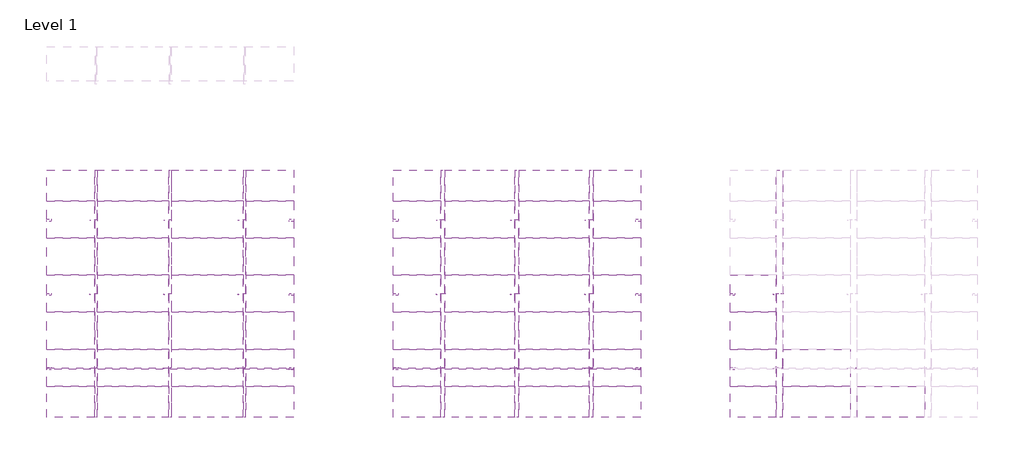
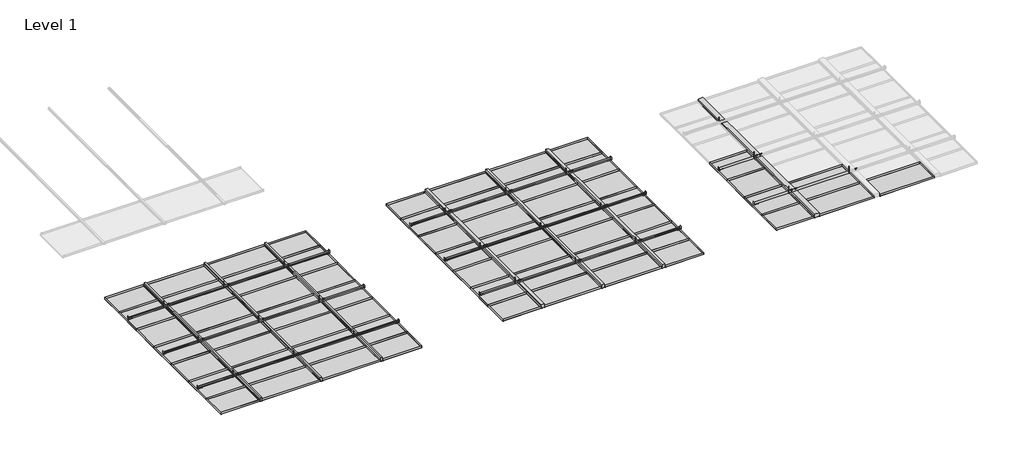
# One storey, part 1 of 32: 139 proxies.
"""IFC4 building model written with IfcOpenShell, lengths in millimetres."""

from ifc_helpers import new_model, si_unit, origin, place, context, project, spatial, transform, mapped, element, save
from components import generic_models_25bc2594, generic_models_84b6d0ed, generic_models_a920f71d, generic_models_29f93f66, generic_models_744256a4, generic_models_4c3bed80, generic_models_f1f4aed1, generic_models_9ae9bc9c, generic_models_ebd4e5d5, generic_models_2596e338, generic_models_5f7188fc, generic_models_6ba6b66a, generic_models_ea6e254a, generic_models_5d724c03, generic_models_0fcaee43, generic_models_6363a089, generic_models_a7669d07, generic_models_2307843b, generic_models_9e18e937, generic_models_28f6a95c

model = new_model("IFC4")

# Units and contexts
model_context = context("Model", 3, world=origin())
ifc_project = project(units=[si_unit("LENGTHUNIT", "METRE", prefix="MILLI")], contexts=[model_context])

# Site, building, storey
site = spatial("IfcSite", under=ifc_project)
building = spatial("IfcBuilding", under=site)
storey = spatial("IfcBuildingStorey", under=building, Name="Level 1", Elevation=0.0)

# Proxies
placement = place(None, origin())
generic_models_shape = generic_models_25bc2594(model_context)
element("IfcBuildingElementProxy", 1, Name="durlum_OMEGA_100 : durlum_OMEGA_100", ObjectType="durlum_OMEGA_100 : durlum_OMEGA_100", at=placement, inside=storey, context=model_context, shape_type="MappedRepresentation", body=[
    mapped(generic_models_shape, transform((-34443.3162584, -18263.6758377, 3800.0), x_axis=(0.0, -1.0, 0.0), y_axis=(1.0, 0.0, 0.0), z_axis=(0.0, 0.0, 1.0))),
])
generic_models_2_shape = generic_models_84b6d0ed(model_context)
element("IfcBuildingElementProxy", 2, Name="durlum_OM76_bracket : durlum_OM76_bracket", ObjectType="durlum_OM76_bracket : durlum_OM76_bracket", at=placement, inside=storey, context=model_context, shape_type="MappedRepresentation", body=[
    mapped(generic_models_2_shape, transform((-45497.4152168, -18262.1758377, 3864.0), x_axis=(1.0, 0.0, 0.0), y_axis=(0.0, 1.0, 0.0), z_axis=(0.0, 0.0, 1.0))),
])
element("IfcBuildingElementProxy", 3, Name="durlum_OM76_bracket : durlum_OM76_bracket", ObjectType="durlum_OM76_bracket : durlum_OM76_bracket", at=placement, inside=storey, context=model_context, shape_type="MappedRepresentation", body=[
    mapped(generic_models_2_shape, transform((-43097.4152168, -18262.1758377, 3864.0), x_axis=(1.0, 0.0, 0.0), y_axis=(0.0, 1.0, 0.0), z_axis=(0.0, 0.0, 1.0))),
])
element("IfcBuildingElementProxy", 4, Name="durlum_OM76_bracket : durlum_OM76_bracket", ObjectType="durlum_OM76_bracket : durlum_OM76_bracket", at=placement, inside=storey, context=model_context, shape_type="MappedRepresentation", body=[
    mapped(generic_models_2_shape, transform((-44297.4152168, -18262.1758377, 3864.0), x_axis=(1.0, 0.0, 0.0), y_axis=(0.0, 1.0, 0.0), z_axis=(0.0, 0.0, 1.0))),
])
element("IfcBuildingElementProxy", 5, Name="durlum_OM76_bracket : durlum_OM76_bracket", ObjectType="durlum_OM76_bracket : durlum_OM76_bracket", at=placement, inside=storey, context=model_context, shape_type="MappedRepresentation", body=[
    mapped(generic_models_2_shape, transform((-45497.4152168, -19462.1758377, 3864.0), x_axis=(1.0, 0.0, 0.0), y_axis=(0.0, 1.0, 0.0), z_axis=(0.0, 0.0, 1.0))),
])
element("IfcBuildingElementProxy", 6, Name="durlum_OM76_bracket : durlum_OM76_bracket", ObjectType="durlum_OM76_bracket : durlum_OM76_bracket", at=placement, inside=storey, context=model_context, shape_type="MappedRepresentation", body=[
    mapped(generic_models_2_shape, transform((-43097.4152168, -19462.1758377, 3864.0), x_axis=(1.0, 0.0, 0.0), y_axis=(0.0, 1.0, 0.0), z_axis=(0.0, 0.0, 1.0))),
])
element("IfcBuildingElementProxy", 7, Name="durlum_OM76_bracket : durlum_OM76_bracket", ObjectType="durlum_OM76_bracket : durlum_OM76_bracket", at=placement, inside=storey, context=model_context, shape_type="MappedRepresentation", body=[
    mapped(generic_models_2_shape, transform((-44297.4152168, -19462.1758377, 3864.0), x_axis=(1.0, 0.0, 0.0), y_axis=(0.0, 1.0, 0.0), z_axis=(0.0, 0.0, 1.0))),
])
element("IfcBuildingElementProxy", 8, Name="durlum_OM76_bracket : durlum_OM76_bracket", ObjectType="durlum_OM76_bracket : durlum_OM76_bracket", at=placement, inside=storey, context=model_context, shape_type="MappedRepresentation", body=[
    mapped(generic_models_2_shape, transform((-45497.4152168, -17062.1758377, 3864.0), x_axis=(1.0, 0.0, 0.0), y_axis=(0.0, 1.0, 0.0), z_axis=(0.0, 0.0, 1.0))),
])
element("IfcBuildingElementProxy", 9, Name="durlum_OM76_bracket : durlum_OM76_bracket", ObjectType="durlum_OM76_bracket : durlum_OM76_bracket", at=placement, inside=storey, context=model_context, shape_type="MappedRepresentation", body=[
    mapped(generic_models_2_shape, transform((-43097.4152168, -17062.1758377, 3864.0), x_axis=(1.0, 0.0, 0.0), y_axis=(0.0, 1.0, 0.0), z_axis=(0.0, 0.0, 1.0))),
])
element("IfcBuildingElementProxy", 10, Name="durlum_OM76_bracket : durlum_OM76_bracket", ObjectType="durlum_OM76_bracket : durlum_OM76_bracket", at=placement, inside=storey, context=model_context, shape_type="MappedRepresentation", body=[
    mapped(generic_models_2_shape, transform((-44297.4152168, -17062.1758377, 3864.0), x_axis=(1.0, 0.0, 0.0), y_axis=(0.0, 1.0, 0.0), z_axis=(0.0, 0.0, 1.0))),
])
element("IfcBuildingElementProxy", 11, Name="durlum_OM76_bracket : durlum_OM76_bracket", ObjectType="durlum_OM76_bracket : durlum_OM76_bracket", at=placement, inside=storey, context=model_context, shape_type="MappedRepresentation", body=[
    mapped(generic_models_2_shape, transform((-37472.0360358, -18262.1758377, 3864.0), x_axis=(1.0, 0.0, 0.0), y_axis=(0.0, 1.0, 0.0), z_axis=(0.0, 0.0, 1.0))),
])
element("IfcBuildingElementProxy", 12, Name="durlum_OM76_bracket : durlum_OM76_bracket", ObjectType="durlum_OM76_bracket : durlum_OM76_bracket", at=placement, inside=storey, context=model_context, shape_type="MappedRepresentation", body=[
    mapped(generic_models_2_shape, transform((-39872.0360358, -18262.1758377, 3864.0), x_axis=(1.0, 0.0, 0.0), y_axis=(0.0, 1.0, 0.0), z_axis=(0.0, 0.0, 1.0))),
])
element("IfcBuildingElementProxy", 13, Name="durlum_OM76_bracket : durlum_OM76_bracket", ObjectType="durlum_OM76_bracket : durlum_OM76_bracket", at=placement, inside=storey, context=model_context, shape_type="MappedRepresentation", body=[
    mapped(generic_models_2_shape, transform((-38672.0360358, -18262.1758377, 3864.0), x_axis=(1.0, 0.0, 0.0), y_axis=(0.0, 1.0, 0.0), z_axis=(0.0, 0.0, 1.0))),
])
element("IfcBuildingElementProxy", 14, Name="durlum_OM76_bracket : durlum_OM76_bracket", ObjectType="durlum_OM76_bracket : durlum_OM76_bracket", at=placement, inside=storey, context=model_context, shape_type="MappedRepresentation", body=[
    mapped(generic_models_2_shape, transform((-39910.0360358, -18262.1758377, 3864.0), x_axis=(1.0, 0.0, 0.0), y_axis=(0.0, 1.0, 0.0), z_axis=(0.0, 0.0, 1.0))),
])
element("IfcBuildingElementProxy", 15, Name="durlum_OM76_bracket : durlum_OM76_bracket", ObjectType="durlum_OM76_bracket : durlum_OM76_bracket", at=placement, inside=storey, context=model_context, shape_type="MappedRepresentation", body=[
    mapped(generic_models_2_shape, transform((-37510.0360358, -18262.1758377, 3864.0), x_axis=(1.0, 0.0, 0.0), y_axis=(0.0, 1.0, 0.0), z_axis=(0.0, 0.0, 1.0))),
])
element("IfcBuildingElementProxy", 16, Name="durlum_OM76_bracket : durlum_OM76_bracket", ObjectType="durlum_OM76_bracket : durlum_OM76_bracket", at=placement, inside=storey, context=model_context, shape_type="MappedRepresentation", body=[
    mapped(generic_models_2_shape, transform((-38710.0360358, -18262.1758377, 3864.0), x_axis=(1.0, 0.0, 0.0), y_axis=(0.0, 1.0, 0.0), z_axis=(0.0, 0.0, 1.0))),
])
element("IfcBuildingElementProxy", 17, Name="durlum_OM76_bracket : durlum_OM76_bracket", ObjectType="durlum_OM76_bracket : durlum_OM76_bracket", at=placement, inside=storey, context=model_context, shape_type="MappedRepresentation", body=[
    mapped(generic_models_2_shape, transform((-37472.0360358, -19462.1758377, 3864.0), x_axis=(1.0, 0.0, 0.0), y_axis=(0.0, 1.0, 0.0), z_axis=(0.0, 0.0, 1.0))),
])
element("IfcBuildingElementProxy", 18, Name="durlum_OM76_bracket : durlum_OM76_bracket", ObjectType="durlum_OM76_bracket : durlum_OM76_bracket", at=placement, inside=storey, context=model_context, shape_type="MappedRepresentation", body=[
    mapped(generic_models_2_shape, transform((-39872.0360358, -19462.1758377, 3864.0), x_axis=(1.0, 0.0, 0.0), y_axis=(0.0, 1.0, 0.0), z_axis=(0.0, 0.0, 1.0))),
])
element("IfcBuildingElementProxy", 19, Name="durlum_OM76_bracket : durlum_OM76_bracket", ObjectType="durlum_OM76_bracket : durlum_OM76_bracket", at=placement, inside=storey, context=model_context, shape_type="MappedRepresentation", body=[
    mapped(generic_models_2_shape, transform((-38672.0360358, -19462.1758377, 3864.0), x_axis=(1.0, 0.0, 0.0), y_axis=(0.0, 1.0, 0.0), z_axis=(0.0, 0.0, 1.0))),
])
element("IfcBuildingElementProxy", 20, Name="durlum_OM76_bracket : durlum_OM76_bracket", ObjectType="durlum_OM76_bracket : durlum_OM76_bracket", at=placement, inside=storey, context=model_context, shape_type="MappedRepresentation", body=[
    mapped(generic_models_2_shape, transform((-39910.0360358, -19462.1758377, 3864.0), x_axis=(1.0, 0.0, 0.0), y_axis=(0.0, 1.0, 0.0), z_axis=(0.0, 0.0, 1.0))),
])
element("IfcBuildingElementProxy", 21, Name="durlum_OM76_bracket : durlum_OM76_bracket", ObjectType="durlum_OM76_bracket : durlum_OM76_bracket", at=placement, inside=storey, context=model_context, shape_type="MappedRepresentation", body=[
    mapped(generic_models_2_shape, transform((-37510.0360358, -19462.1758377, 3864.0), x_axis=(1.0, 0.0, 0.0), y_axis=(0.0, 1.0, 0.0), z_axis=(0.0, 0.0, 1.0))),
])
element("IfcBuildingElementProxy", 22, Name="durlum_OM76_bracket : durlum_OM76_bracket", ObjectType="durlum_OM76_bracket : durlum_OM76_bracket", at=placement, inside=storey, context=model_context, shape_type="MappedRepresentation", body=[
    mapped(generic_models_2_shape, transform((-38710.0360358, -19462.1758377, 3864.0), x_axis=(1.0, 0.0, 0.0), y_axis=(0.0, 1.0, 0.0), z_axis=(0.0, 0.0, 1.0))),
])
element("IfcBuildingElementProxy", 23, Name="durlum_OM76_bracket : durlum_OM76_bracket", ObjectType="durlum_OM76_bracket : durlum_OM76_bracket", at=placement, inside=storey, context=model_context, shape_type="MappedRepresentation", body=[
    mapped(generic_models_2_shape, transform((-37472.0360358, -17062.1758377, 3864.0), x_axis=(1.0, 0.0, 0.0), y_axis=(0.0, 1.0, 0.0), z_axis=(0.0, 0.0, 1.0))),
])
element("IfcBuildingElementProxy", 24, Name="durlum_OM76_bracket : durlum_OM76_bracket", ObjectType="durlum_OM76_bracket : durlum_OM76_bracket", at=placement, inside=storey, context=model_context, shape_type="MappedRepresentation", body=[
    mapped(generic_models_2_shape, transform((-39872.0360358, -17062.1758377, 3864.0), x_axis=(1.0, 0.0, 0.0), y_axis=(0.0, 1.0, 0.0), z_axis=(0.0, 0.0, 1.0))),
])
element("IfcBuildingElementProxy", 25, Name="durlum_OM76_bracket : durlum_OM76_bracket", ObjectType="durlum_OM76_bracket : durlum_OM76_bracket", at=placement, inside=storey, context=model_context, shape_type="MappedRepresentation", body=[
    mapped(generic_models_2_shape, transform((-38672.0360358, -17062.1758377, 3864.0), x_axis=(1.0, 0.0, 0.0), y_axis=(0.0, 1.0, 0.0), z_axis=(0.0, 0.0, 1.0))),
])
element("IfcBuildingElementProxy", 26, Name="durlum_OM76_bracket : durlum_OM76_bracket", ObjectType="durlum_OM76_bracket : durlum_OM76_bracket", at=placement, inside=storey, context=model_context, shape_type="MappedRepresentation", body=[
    mapped(generic_models_2_shape, transform((-39910.0360358, -17062.1758377, 3864.0), x_axis=(1.0, 0.0, 0.0), y_axis=(0.0, 1.0, 0.0), z_axis=(0.0, 0.0, 1.0))),
])
element("IfcBuildingElementProxy", 27, Name="durlum_OM76_bracket : durlum_OM76_bracket", ObjectType="durlum_OM76_bracket : durlum_OM76_bracket", at=placement, inside=storey, context=model_context, shape_type="MappedRepresentation", body=[
    mapped(generic_models_2_shape, transform((-37510.0360358, -17062.1758377, 3864.0), x_axis=(1.0, 0.0, 0.0), y_axis=(0.0, 1.0, 0.0), z_axis=(0.0, 0.0, 1.0))),
])
element("IfcBuildingElementProxy", 28, Name="durlum_OM76_bracket : durlum_OM76_bracket", ObjectType="durlum_OM76_bracket : durlum_OM76_bracket", at=placement, inside=storey, context=model_context, shape_type="MappedRepresentation", body=[
    mapped(generic_models_2_shape, transform((-38710.0360358, -17062.1758377, 3864.0), x_axis=(1.0, 0.0, 0.0), y_axis=(0.0, 1.0, 0.0), z_axis=(0.0, 0.0, 1.0))),
])
element("IfcBuildingElementProxy", 29, Name="durlum_OM76_bracket : durlum_OM76_bracket", ObjectType="durlum_OM76_bracket : durlum_OM76_bracket", at=placement, inside=storey, context=model_context, shape_type="MappedRepresentation", body=[
    mapped(generic_models_2_shape, transform((-34403.3162584, -18262.1758377, 3864.0), x_axis=(1.0, 0.0, 0.0), y_axis=(0.0, 1.0, 0.0), z_axis=(0.0, 0.0, 1.0))),
])
element("IfcBuildingElementProxy", 30, Name="durlum_OM76_bracket : durlum_OM76_bracket", ObjectType="durlum_OM76_bracket : durlum_OM76_bracket", at=placement, inside=storey, context=model_context, shape_type="MappedRepresentation", body=[
    mapped(generic_models_2_shape, transform((-34483.3162584, -18262.1758377, 3864.0), x_axis=(1.0, 0.0, 0.0), y_axis=(0.0, 1.0, 0.0), z_axis=(0.0, 0.0, 1.0))),
])
element("IfcBuildingElementProxy", 31, Name="durlum_OM76_bracket : durlum_OM76_bracket", ObjectType="durlum_OM76_bracket : durlum_OM76_bracket", at=placement, inside=storey, context=model_context, shape_type="MappedRepresentation", body=[
    mapped(generic_models_2_shape, transform((-34403.3162584, -19462.1758377, 3864.0), x_axis=(1.0, 0.0, 0.0), y_axis=(0.0, 1.0, 0.0), z_axis=(0.0, 0.0, 1.0))),
])
element("IfcBuildingElementProxy", 32, Name="durlum_OM76_bracket : durlum_OM76_bracket", ObjectType="durlum_OM76_bracket : durlum_OM76_bracket", at=placement, inside=storey, context=model_context, shape_type="MappedRepresentation", body=[
    mapped(generic_models_2_shape, transform((-33203.3162584, -19462.1758377, 3864.0), x_axis=(1.0, 0.0, 0.0), y_axis=(0.0, 1.0, 0.0), z_axis=(0.0, 0.0, 1.0))),
])
element("IfcBuildingElementProxy", 33, Name="durlum_OM76_bracket : durlum_OM76_bracket", ObjectType="durlum_OM76_bracket : durlum_OM76_bracket", at=placement, inside=storey, context=model_context, shape_type="MappedRepresentation", body=[
    mapped(generic_models_2_shape, transform((-34483.3162584, -19462.1758377, 3864.0), x_axis=(1.0, 0.0, 0.0), y_axis=(0.0, 1.0, 0.0), z_axis=(0.0, 0.0, 1.0))),
])
generic_models_3_shape = generic_models_a920f71d(model_context)
element("IfcBuildingElementProxy", 34, Name="durlum_threaded_rod_M6 : durlum_threaded_rod_M6", ObjectType="durlum_threaded_rod_M6 : durlum_threaded_rod_M6", at=placement, inside=storey, context=model_context, shape_type="MappedRepresentation", body=[
    mapped(generic_models_3_shape, transform((-43197.4152168, -18277.6758377, 3876.0), x_axis=(1.0, 0.0, 0.0), y_axis=(0.0, 1.0, 0.0), z_axis=(0.0, 0.0, 1.0))),
])
element("IfcBuildingElementProxy", 35, Name="durlum_threaded_rod_M6 : durlum_threaded_rod_M6", ObjectType="durlum_threaded_rod_M6 : durlum_threaded_rod_M6", at=placement, inside=storey, context=model_context, shape_type="MappedRepresentation", body=[
    mapped(generic_models_3_shape, transform((-45597.4152168, -18277.6758377, 3876.0), x_axis=(1.0, 0.0, 0.0), y_axis=(0.0, 1.0, 0.0), z_axis=(0.0, 0.0, 1.0))),
])
element("IfcBuildingElementProxy", 36, Name="durlum_threaded_rod_M6 : durlum_threaded_rod_M6", ObjectType="durlum_threaded_rod_M6 : durlum_threaded_rod_M6", at=placement, inside=storey, context=model_context, shape_type="MappedRepresentation", body=[
    mapped(generic_models_3_shape, transform((-44397.4152168, -18277.6758377, 3876.0), x_axis=(1.0, 0.0, 0.0), y_axis=(0.0, 1.0, 0.0), z_axis=(0.0, 0.0, 1.0))),
])
element("IfcBuildingElementProxy", 37, Name="durlum_threaded_rod_M6 : durlum_threaded_rod_M6", ObjectType="durlum_threaded_rod_M6 : durlum_threaded_rod_M6", at=placement, inside=storey, context=model_context, shape_type="MappedRepresentation", body=[
    mapped(generic_models_3_shape, transform((-43197.4152168, -19477.6758377, 3876.0), x_axis=(1.0, 0.0, 0.0), y_axis=(0.0, 1.0, 0.0), z_axis=(0.0, 0.0, 1.0))),
])
element("IfcBuildingElementProxy", 38, Name="durlum_threaded_rod_M6 : durlum_threaded_rod_M6", ObjectType="durlum_threaded_rod_M6 : durlum_threaded_rod_M6", at=placement, inside=storey, context=model_context, shape_type="MappedRepresentation", body=[
    mapped(generic_models_3_shape, transform((-45597.4152168, -19477.6758377, 3876.0), x_axis=(1.0, 0.0, 0.0), y_axis=(0.0, 1.0, 0.0), z_axis=(0.0, 0.0, 1.0))),
])
element("IfcBuildingElementProxy", 39, Name="durlum_threaded_rod_M6 : durlum_threaded_rod_M6", ObjectType="durlum_threaded_rod_M6 : durlum_threaded_rod_M6", at=placement, inside=storey, context=model_context, shape_type="MappedRepresentation", body=[
    mapped(generic_models_3_shape, transform((-44397.4152168, -19477.6758377, 3876.0), x_axis=(1.0, 0.0, 0.0), y_axis=(0.0, 1.0, 0.0), z_axis=(0.0, 0.0, 1.0))),
])
element("IfcBuildingElementProxy", 40, Name="durlum_threaded_rod_M6 : durlum_threaded_rod_M6", ObjectType="durlum_threaded_rod_M6 : durlum_threaded_rod_M6", at=placement, inside=storey, context=model_context, shape_type="MappedRepresentation", body=[
    mapped(generic_models_3_shape, transform((-43197.4152168, -17077.6758377, 3876.0), x_axis=(1.0, 0.0, 0.0), y_axis=(0.0, 1.0, 0.0), z_axis=(0.0, 0.0, 1.0))),
])
element("IfcBuildingElementProxy", 41, Name="durlum_threaded_rod_M6 : durlum_threaded_rod_M6", ObjectType="durlum_threaded_rod_M6 : durlum_threaded_rod_M6", at=placement, inside=storey, context=model_context, shape_type="MappedRepresentation", body=[
    mapped(generic_models_3_shape, transform((-45597.4152168, -17077.6758377, 3876.0), x_axis=(1.0, 0.0, 0.0), y_axis=(0.0, 1.0, 0.0), z_axis=(0.0, 0.0, 1.0))),
])
element("IfcBuildingElementProxy", 42, Name="durlum_threaded_rod_M6 : durlum_threaded_rod_M6", ObjectType="durlum_threaded_rod_M6 : durlum_threaded_rod_M6", at=placement, inside=storey, context=model_context, shape_type="MappedRepresentation", body=[
    mapped(generic_models_3_shape, transform((-44397.4152168, -17077.6758377, 3876.0), x_axis=(1.0, 0.0, 0.0), y_axis=(0.0, 1.0, 0.0), z_axis=(0.0, 0.0, 1.0))),
])
element("IfcBuildingElementProxy", 43, Name="durlum_threaded_rod_M6 : durlum_threaded_rod_M6", ObjectType="durlum_threaded_rod_M6 : durlum_threaded_rod_M6", at=placement, inside=storey, context=model_context, shape_type="MappedRepresentation", body=[
    mapped(generic_models_3_shape, transform((-37591.0360358, -18277.6758377, 3876.0), x_axis=(1.0, 0.0, 0.0), y_axis=(0.0, 1.0, 0.0), z_axis=(0.0, 0.0, 1.0))),
])
element("IfcBuildingElementProxy", 44, Name="durlum_threaded_rod_M6 : durlum_threaded_rod_M6", ObjectType="durlum_threaded_rod_M6 : durlum_threaded_rod_M6", at=placement, inside=storey, context=model_context, shape_type="MappedRepresentation", body=[
    mapped(generic_models_3_shape, transform((-39991.0360358, -18277.6758377, 3876.0), x_axis=(1.0, 0.0, 0.0), y_axis=(0.0, 1.0, 0.0), z_axis=(0.0, 0.0, 1.0))),
])
element("IfcBuildingElementProxy", 45, Name="durlum_threaded_rod_M6 : durlum_threaded_rod_M6", ObjectType="durlum_threaded_rod_M6 : durlum_threaded_rod_M6", at=placement, inside=storey, context=model_context, shape_type="MappedRepresentation", body=[
    mapped(generic_models_3_shape, transform((-38791.0360358, -18277.6758377, 3876.0), x_axis=(1.0, 0.0, 0.0), y_axis=(0.0, 1.0, 0.0), z_axis=(0.0, 0.0, 1.0))),
])
element("IfcBuildingElementProxy", 46, Name="durlum_threaded_rod_M6 : durlum_threaded_rod_M6", ObjectType="durlum_threaded_rod_M6 : durlum_threaded_rod_M6", at=placement, inside=storey, context=model_context, shape_type="MappedRepresentation", body=[
    mapped(generic_models_3_shape, transform((-37591.0360358, -19477.6758377, 3876.0), x_axis=(1.0, 0.0, 0.0), y_axis=(0.0, 1.0, 0.0), z_axis=(0.0, 0.0, 1.0))),
])
element("IfcBuildingElementProxy", 47, Name="durlum_threaded_rod_M6 : durlum_threaded_rod_M6", ObjectType="durlum_threaded_rod_M6 : durlum_threaded_rod_M6", at=placement, inside=storey, context=model_context, shape_type="MappedRepresentation", body=[
    mapped(generic_models_3_shape, transform((-39991.0360358, -19477.6758377, 3876.0), x_axis=(1.0, 0.0, 0.0), y_axis=(0.0, 1.0, 0.0), z_axis=(0.0, 0.0, 1.0))),
])
element("IfcBuildingElementProxy", 48, Name="durlum_threaded_rod_M6 : durlum_threaded_rod_M6", ObjectType="durlum_threaded_rod_M6 : durlum_threaded_rod_M6", at=placement, inside=storey, context=model_context, shape_type="MappedRepresentation", body=[
    mapped(generic_models_3_shape, transform((-38791.0360358, -19477.6758377, 3876.0), x_axis=(1.0, 0.0, 0.0), y_axis=(0.0, 1.0, 0.0), z_axis=(0.0, 0.0, 1.0))),
])
element("IfcBuildingElementProxy", 49, Name="durlum_threaded_rod_M6 : durlum_threaded_rod_M6", ObjectType="durlum_threaded_rod_M6 : durlum_threaded_rod_M6", at=placement, inside=storey, context=model_context, shape_type="MappedRepresentation", body=[
    mapped(generic_models_3_shape, transform((-37591.0360358, -17077.6758377, 3876.0), x_axis=(1.0, 0.0, 0.0), y_axis=(0.0, 1.0, 0.0), z_axis=(0.0, 0.0, 1.0))),
])
element("IfcBuildingElementProxy", 50, Name="durlum_threaded_rod_M6 : durlum_threaded_rod_M6", ObjectType="durlum_threaded_rod_M6 : durlum_threaded_rod_M6", at=placement, inside=storey, context=model_context, shape_type="MappedRepresentation", body=[
    mapped(generic_models_3_shape, transform((-39991.0360358, -17077.6758377, 3876.0), x_axis=(1.0, 0.0, 0.0), y_axis=(0.0, 1.0, 0.0), z_axis=(0.0, 0.0, 1.0))),
])
element("IfcBuildingElementProxy", 51, Name="durlum_threaded_rod_M6 : durlum_threaded_rod_M6", ObjectType="durlum_threaded_rod_M6 : durlum_threaded_rod_M6", at=placement, inside=storey, context=model_context, shape_type="MappedRepresentation", body=[
    mapped(generic_models_3_shape, transform((-38791.0360358, -17077.6758377, 3876.0), x_axis=(1.0, 0.0, 0.0), y_axis=(0.0, 1.0, 0.0), z_axis=(0.0, 0.0, 1.0))),
])
element("IfcBuildingElementProxy", 52, Name="durlum_threaded_rod_M6 : durlum_threaded_rod_M6", ObjectType="durlum_threaded_rod_M6 : durlum_threaded_rod_M6", at=placement, inside=storey, context=model_context, shape_type="MappedRepresentation", body=[
    mapped(generic_models_3_shape, transform((-34543.3162584, -18277.6758377, 3876.0), x_axis=(1.0, 0.0, 0.0), y_axis=(0.0, 1.0, 0.0), z_axis=(0.0, 0.0, 1.0))),
])
element("IfcBuildingElementProxy", 53, Name="durlum_threaded_rod_M6 : durlum_threaded_rod_M6", ObjectType="durlum_threaded_rod_M6 : durlum_threaded_rod_M6", at=placement, inside=storey, context=model_context, shape_type="MappedRepresentation", body=[
    mapped(generic_models_3_shape, transform((-34543.3162584, -19477.6758377, 3876.0), x_axis=(1.0, 0.0, 0.0), y_axis=(0.0, 1.0, 0.0), z_axis=(0.0, 0.0, 1.0))),
])
element("IfcBuildingElementProxy", 54, Name="durlum_threaded_rod_M6 : durlum_threaded_rod_M6", ObjectType="durlum_threaded_rod_M6 : durlum_threaded_rod_M6", at=placement, inside=storey, context=model_context, shape_type="MappedRepresentation", body=[
    mapped(generic_models_3_shape, transform((-33343.3162584, -19477.6758377, 3876.0), x_axis=(1.0, 0.0, 0.0), y_axis=(0.0, 1.0, 0.0), z_axis=(0.0, 0.0, 1.0))),
])
generic_models_4_shape = generic_models_29f93f66(model_context)
element("IfcBuildingElementProxy", 55, Name="durlum_OMEGA_63 : durlum_OMEGA_63", ObjectType="durlum_OMEGA_63 : durlum_OMEGA_63", at=placement, inside=storey, context=model_context, shape_type="MappedRepresentation", body=[
    mapped(generic_models_4_shape, transform((-38691.0360358, -18263.6758377, 3800.0), x_axis=(0.0, -1.0, 0.0), y_axis=(1.0, 0.0, 0.0), z_axis=(0.0, 0.0, 1.0))),
])
element("IfcBuildingElementProxy", 56, Name="durlum_OMEGA_63 : durlum_OMEGA_63", ObjectType="durlum_OMEGA_63 : durlum_OMEGA_63", at=placement, inside=storey, context=model_context, shape_type="MappedRepresentation", body=[
    mapped(generic_models_4_shape, transform((-39891.0360358, -18263.6758377, 3800.0), x_axis=(0.0, -1.0, 0.0), y_axis=(1.0, 0.0, 0.0), z_axis=(0.0, 0.0, 1.0))),
])
element("IfcBuildingElementProxy", 57, Name="durlum_OMEGA_63 : durlum_OMEGA_63", ObjectType="durlum_OMEGA_63 : durlum_OMEGA_63", at=placement, inside=storey, context=model_context, shape_type="MappedRepresentation", body=[
    mapped(generic_models_4_shape, transform((-37491.0360358, -18263.6758377, 3800.0), x_axis=(0.0, -1.0, 0.0), y_axis=(1.0, 0.0, 0.0), z_axis=(0.0, 0.0, 1.0))),
])
generic_models_5_shape = generic_models_744256a4(model_context)
element("IfcBuildingElementProxy", 58, Name="durlum_OMEGA_40 : durlum_OMEGA_40", ObjectType="durlum_OMEGA_40 : durlum_OMEGA_40", at=placement, inside=storey, context=model_context, shape_type="MappedRepresentation", body=[
    mapped(generic_models_5_shape, transform((-44297.4152168, -18263.6758377, 3800.0), x_axis=(0.0, -1.0, 0.0), y_axis=(1.0, 0.0, 0.0), z_axis=(0.0, 0.0, 1.0))),
])
element("IfcBuildingElementProxy", 59, Name="durlum_OMEGA_40 : durlum_OMEGA_40", ObjectType="durlum_OMEGA_40 : durlum_OMEGA_40", at=placement, inside=storey, context=model_context, shape_type="MappedRepresentation", body=[
    mapped(generic_models_5_shape, transform((-45497.4152168, -18263.6758377, 3800.0), x_axis=(0.0, -1.0, 0.0), y_axis=(1.0, 0.0, 0.0), z_axis=(0.0, 0.0, 1.0))),
])
element("IfcBuildingElementProxy", 60, Name="durlum_OMEGA_40 : durlum_OMEGA_40", ObjectType="durlum_OMEGA_40 : durlum_OMEGA_40", at=placement, inside=storey, context=model_context, shape_type="MappedRepresentation", body=[
    mapped(generic_models_5_shape, transform((-43097.4152168, -18263.6758377, 3800.0), x_axis=(0.0, -1.0, 0.0), y_axis=(1.0, 0.0, 0.0), z_axis=(0.0, 0.0, 1.0))),
])
generic_models_6_shape = generic_models_4c3bed80(model_context)
element("IfcBuildingElementProxy", 61, Name="durlum_S-OM-40-RHOMBOS : durlum_S-OM-40-RHOMBOS_panel", ObjectType="durlum_S-OM-40-RHOMBOS : durlum_S-OM-40-RHOMBOS_panel", at=placement, inside=storey, context=model_context, shape_type="MappedRepresentation", body=[
    mapped(generic_models_6_shape, transform((-44897.4152168, -18863.6758377, 3800.0), x_axis=(1.0, 0.0, 0.0), y_axis=(0.0, 1.0, 0.0), z_axis=(0.0, 0.0, 1.0))),
])
element("IfcBuildingElementProxy", 62, Name="durlum_S-OM-40-RHOMBOS : durlum_S-OM-40-RHOMBOS_panel", ObjectType="durlum_S-OM-40-RHOMBOS : durlum_S-OM-40-RHOMBOS_panel", at=placement, inside=storey, context=model_context, shape_type="MappedRepresentation", body=[
    mapped(generic_models_6_shape, transform((-43697.4152168, -18863.6758377, 3800.0), x_axis=(1.0, 0.0, 0.0), y_axis=(0.0, 1.0, 0.0), z_axis=(0.0, 0.0, 1.0))),
])
element("IfcBuildingElementProxy", 63, Name="durlum_S-OM-40-RHOMBOS : durlum_S-OM-40-RHOMBOS_panel", ObjectType="durlum_S-OM-40-RHOMBOS : durlum_S-OM-40-RHOMBOS_panel", at=placement, inside=storey, context=model_context, shape_type="MappedRepresentation", body=[
    mapped(generic_models_6_shape, transform((-44897.4152168, -18263.6758377, 3800.0), x_axis=(1.0, 0.0, 0.0), y_axis=(0.0, 1.0, 0.0), z_axis=(0.0, 0.0, 1.0))),
])
element("IfcBuildingElementProxy", 64, Name="durlum_S-OM-40-RHOMBOS : durlum_S-OM-40-RHOMBOS_panel", ObjectType="durlum_S-OM-40-RHOMBOS : durlum_S-OM-40-RHOMBOS_panel", at=placement, inside=storey, context=model_context, shape_type="MappedRepresentation", body=[
    mapped(generic_models_6_shape, transform((-43697.4152168, -18263.6758377, 3800.0), x_axis=(1.0, 0.0, 0.0), y_axis=(0.0, 1.0, 0.0), z_axis=(0.0, 0.0, 1.0))),
])
element("IfcBuildingElementProxy", 65, Name="durlum_S-OM-40-RHOMBOS : durlum_S-OM-40-RHOMBOS_panel", ObjectType="durlum_S-OM-40-RHOMBOS : durlum_S-OM-40-RHOMBOS_panel", at=placement, inside=storey, context=model_context, shape_type="MappedRepresentation", body=[
    mapped(generic_models_6_shape, transform((-44897.4152168, -17663.6758377, 3800.0), x_axis=(1.0, 0.0, 0.0), y_axis=(0.0, 1.0, 0.0), z_axis=(0.0, 0.0, 1.0))),
])
element("IfcBuildingElementProxy", 66, Name="durlum_S-OM-40-RHOMBOS : durlum_S-OM-40-RHOMBOS_panel", ObjectType="durlum_S-OM-40-RHOMBOS : durlum_S-OM-40-RHOMBOS_panel", at=placement, inside=storey, context=model_context, shape_type="MappedRepresentation", body=[
    mapped(generic_models_6_shape, transform((-43697.4152168, -17663.6758377, 3800.0), x_axis=(1.0, 0.0, 0.0), y_axis=(0.0, 1.0, 0.0), z_axis=(0.0, 0.0, 1.0))),
])
element("IfcBuildingElementProxy", 67, Name="durlum_S-OM-40-RHOMBOS : durlum_S-OM-40-RHOMBOS_panel", ObjectType="durlum_S-OM-40-RHOMBOS : durlum_S-OM-40-RHOMBOS_panel", at=placement, inside=storey, context=model_context, shape_type="MappedRepresentation", body=[
    mapped(generic_models_6_shape, transform((-44897.4152168, -19463.6758377, 3800.0), x_axis=(1.0, 0.0, 0.0), y_axis=(0.0, 1.0, 0.0), z_axis=(0.0, 0.0, 1.0))),
])
element("IfcBuildingElementProxy", 68, Name="durlum_S-OM-40-RHOMBOS : durlum_S-OM-40-RHOMBOS_panel", ObjectType="durlum_S-OM-40-RHOMBOS : durlum_S-OM-40-RHOMBOS_panel", at=placement, inside=storey, context=model_context, shape_type="MappedRepresentation", body=[
    mapped(generic_models_6_shape, transform((-43697.4152168, -19463.6758377, 3800.0), x_axis=(1.0, 0.0, 0.0), y_axis=(0.0, 1.0, 0.0), z_axis=(0.0, 0.0, 1.0))),
])
element("IfcBuildingElementProxy", 69, Name="durlum_S-OM-40-RHOMBOS : durlum_S-OM-40-RHOMBOS_panel", ObjectType="durlum_S-OM-40-RHOMBOS : durlum_S-OM-40-RHOMBOS_panel", at=placement, inside=storey, context=model_context, shape_type="MappedRepresentation", body=[
    mapped(generic_models_6_shape, transform((-44897.4152168, -17063.6758377, 3800.0), x_axis=(1.0, 0.0, 0.0), y_axis=(0.0, 1.0, 0.0), z_axis=(0.0, 0.0, 1.0))),
])
element("IfcBuildingElementProxy", 70, Name="durlum_S-OM-40-RHOMBOS : durlum_S-OM-40-RHOMBOS_panel", ObjectType="durlum_S-OM-40-RHOMBOS : durlum_S-OM-40-RHOMBOS_panel", at=placement, inside=storey, context=model_context, shape_type="MappedRepresentation", body=[
    mapped(generic_models_6_shape, transform((-43697.4152168, -17063.6758377, 3800.0), x_axis=(1.0, 0.0, 0.0), y_axis=(0.0, 1.0, 0.0), z_axis=(0.0, 0.0, 1.0))),
])
generic_models_7_shape = generic_models_f1f4aed1(model_context)
element("IfcBuildingElementProxy", 71, Name="durlum_S-OM-40-RHOMBOS : durlum_S-OM-40-RHOMBOS_panel_wall_width_cut", ObjectType="durlum_S-OM-40-RHOMBOS : durlum_S-OM-40-RHOMBOS_panel_wall_width_cut", at=placement, inside=storey, context=model_context, shape_type="MappedRepresentation", body=[
    mapped(generic_models_7_shape, transform((-43697.4152168, -20013.6758377, 3800.0), x_axis=(1.0, 0.0, 0.0), y_axis=(0.0, 1.0, 0.0), z_axis=(0.0, 0.0, 1.0))),
])
element("IfcBuildingElementProxy", 72, Name="durlum_S-OM-40-RHOMBOS : durlum_S-OM-40-RHOMBOS_panel_wall_width_cut", ObjectType="durlum_S-OM-40-RHOMBOS : durlum_S-OM-40-RHOMBOS_panel_wall_width_cut", at=placement, inside=storey, context=model_context, shape_type="MappedRepresentation", body=[
    mapped(generic_models_7_shape, transform((-43697.4152168, -16513.6758377, 3800.0), x_axis=(1.0, 0.0, 0.0), y_axis=(0.0, 1.0, 0.0), z_axis=(0.0, 0.0, 1.0))),
])
element("IfcBuildingElementProxy", 73, Name="durlum_S-OM-40-RHOMBOS : durlum_S-OM-40-RHOMBOS_panel_wall_width_cut", ObjectType="durlum_S-OM-40-RHOMBOS : durlum_S-OM-40-RHOMBOS_panel_wall_width_cut", at=placement, inside=storey, context=model_context, shape_type="MappedRepresentation", body=[
    mapped(generic_models_7_shape, transform((-44897.4152168, -20013.6758377, 3800.0), x_axis=(1.0, 0.0, 0.0), y_axis=(0.0, 1.0, 0.0), z_axis=(0.0, 0.0, 1.0))),
])
element("IfcBuildingElementProxy", 74, Name="durlum_S-OM-40-RHOMBOS : durlum_S-OM-40-RHOMBOS_panel_wall_width_cut", ObjectType="durlum_S-OM-40-RHOMBOS : durlum_S-OM-40-RHOMBOS_panel_wall_width_cut", at=placement, inside=storey, context=model_context, shape_type="MappedRepresentation", body=[
    mapped(generic_models_7_shape, transform((-44897.4152168, -16513.6758377, 3800.0), x_axis=(1.0, 0.0, 0.0), y_axis=(0.0, 1.0, 0.0), z_axis=(0.0, 0.0, 1.0))),
])
generic_models_8_shape = generic_models_9ae9bc9c(model_context)
element("IfcBuildingElementProxy", 75, Name="durlum_S-OM-63 : durlum_S-OM-63_panel", ObjectType="durlum_S-OM-63 : durlum_S-OM-63_panel", at=placement, inside=storey, context=model_context, shape_type="MappedRepresentation", body=[
    mapped(generic_models_8_shape, transform((-39291.0360358, -18863.6758377, 3800.0), x_axis=(1.0, 0.0, 0.0), y_axis=(0.0, 1.0, 0.0), z_axis=(0.0, 0.0, 1.0))),
])
element("IfcBuildingElementProxy", 76, Name="durlum_S-OM-63 : durlum_S-OM-63_panel", ObjectType="durlum_S-OM-63 : durlum_S-OM-63_panel", at=placement, inside=storey, context=model_context, shape_type="MappedRepresentation", body=[
    mapped(generic_models_8_shape, transform((-38091.0360358, -18863.6758377, 3800.0), x_axis=(1.0, 0.0, 0.0), y_axis=(0.0, 1.0, 0.0), z_axis=(0.0, 0.0, 1.0))),
])
element("IfcBuildingElementProxy", 77, Name="durlum_S-OM-63 : durlum_S-OM-63_panel", ObjectType="durlum_S-OM-63 : durlum_S-OM-63_panel", at=placement, inside=storey, context=model_context, shape_type="MappedRepresentation", body=[
    mapped(generic_models_8_shape, transform((-39291.0360358, -18263.6758377, 3800.0), x_axis=(1.0, 0.0, 0.0), y_axis=(0.0, 1.0, 0.0), z_axis=(0.0, 0.0, 1.0))),
])
element("IfcBuildingElementProxy", 78, Name="durlum_S-OM-63 : durlum_S-OM-63_panel", ObjectType="durlum_S-OM-63 : durlum_S-OM-63_panel", at=placement, inside=storey, context=model_context, shape_type="MappedRepresentation", body=[
    mapped(generic_models_8_shape, transform((-38091.0360358, -18263.6758377, 3800.0), x_axis=(1.0, 0.0, 0.0), y_axis=(0.0, 1.0, 0.0), z_axis=(0.0, 0.0, 1.0))),
])
element("IfcBuildingElementProxy", 79, Name="durlum_S-OM-63 : durlum_S-OM-63_panel", ObjectType="durlum_S-OM-63 : durlum_S-OM-63_panel", at=placement, inside=storey, context=model_context, shape_type="MappedRepresentation", body=[
    mapped(generic_models_8_shape, transform((-39291.0360358, -17663.6758377, 3800.0), x_axis=(1.0, 0.0, 0.0), y_axis=(0.0, 1.0, 0.0), z_axis=(0.0, 0.0, 1.0))),
])
element("IfcBuildingElementProxy", 80, Name="durlum_S-OM-63 : durlum_S-OM-63_panel", ObjectType="durlum_S-OM-63 : durlum_S-OM-63_panel", at=placement, inside=storey, context=model_context, shape_type="MappedRepresentation", body=[
    mapped(generic_models_8_shape, transform((-38091.0360358, -17663.6758377, 3800.0), x_axis=(1.0, 0.0, 0.0), y_axis=(0.0, 1.0, 0.0), z_axis=(0.0, 0.0, 1.0))),
])
element("IfcBuildingElementProxy", 81, Name="durlum_S-OM-63 : durlum_S-OM-63_panel", ObjectType="durlum_S-OM-63 : durlum_S-OM-63_panel", at=placement, inside=storey, context=model_context, shape_type="MappedRepresentation", body=[
    mapped(generic_models_8_shape, transform((-39291.0360358, -19463.6758377, 3800.0), x_axis=(1.0, 0.0, 0.0), y_axis=(0.0, 1.0, 0.0), z_axis=(0.0, 0.0, 1.0))),
])
element("IfcBuildingElementProxy", 82, Name="durlum_S-OM-63 : durlum_S-OM-63_panel", ObjectType="durlum_S-OM-63 : durlum_S-OM-63_panel", at=placement, inside=storey, context=model_context, shape_type="MappedRepresentation", body=[
    mapped(generic_models_8_shape, transform((-38091.0360358, -19463.6758377, 3800.0), x_axis=(1.0, 0.0, 0.0), y_axis=(0.0, 1.0, 0.0), z_axis=(0.0, 0.0, 1.0))),
])
element("IfcBuildingElementProxy", 83, Name="durlum_S-OM-63 : durlum_S-OM-63_panel", ObjectType="durlum_S-OM-63 : durlum_S-OM-63_panel", at=placement, inside=storey, context=model_context, shape_type="MappedRepresentation", body=[
    mapped(generic_models_8_shape, transform((-39291.0360358, -17063.6758377, 3800.0), x_axis=(1.0, 0.0, 0.0), y_axis=(0.0, 1.0, 0.0), z_axis=(0.0, 0.0, 1.0))),
])
element("IfcBuildingElementProxy", 84, Name="durlum_S-OM-63 : durlum_S-OM-63_panel", ObjectType="durlum_S-OM-63 : durlum_S-OM-63_panel", at=placement, inside=storey, context=model_context, shape_type="MappedRepresentation", body=[
    mapped(generic_models_8_shape, transform((-38091.0360358, -17063.6758377, 3800.0), x_axis=(1.0, 0.0, 0.0), y_axis=(0.0, 1.0, 0.0), z_axis=(0.0, 0.0, 1.0))),
])
generic_models_9_shape = generic_models_ebd4e5d5(model_context)
element("IfcBuildingElementProxy", 85, Name="durlum_S-OM-63 : durlum_S-OM-63_panel_wall_width_cut", ObjectType="durlum_S-OM-63 : durlum_S-OM-63_panel_wall_width_cut", at=placement, inside=storey, context=model_context, shape_type="MappedRepresentation", body=[
    mapped(generic_models_9_shape, transform((-38091.0360358, -20013.6758377, 3800.0), x_axis=(1.0, 0.0, 0.0), y_axis=(0.0, 1.0, 0.0), z_axis=(0.0, 0.0, 1.0))),
])
element("IfcBuildingElementProxy", 86, Name="durlum_S-OM-63 : durlum_S-OM-63_panel_wall_width_cut", ObjectType="durlum_S-OM-63 : durlum_S-OM-63_panel_wall_width_cut", at=placement, inside=storey, context=model_context, shape_type="MappedRepresentation", body=[
    mapped(generic_models_9_shape, transform((-38091.0360358, -16513.6758377, 3800.0), x_axis=(1.0, 0.0, 0.0), y_axis=(0.0, 1.0, 0.0), z_axis=(0.0, 0.0, 1.0))),
])
element("IfcBuildingElementProxy", 87, Name="durlum_S-OM-63 : durlum_S-OM-63_panel_wall_width_cut", ObjectType="durlum_S-OM-63 : durlum_S-OM-63_panel_wall_width_cut", at=placement, inside=storey, context=model_context, shape_type="MappedRepresentation", body=[
    mapped(generic_models_9_shape, transform((-39291.0360358, -20013.6758377, 3800.0), x_axis=(1.0, 0.0, 0.0), y_axis=(0.0, 1.0, 0.0), z_axis=(0.0, 0.0, 1.0))),
])
element("IfcBuildingElementProxy", 88, Name="durlum_S-OM-63 : durlum_S-OM-63_panel_wall_width_cut", ObjectType="durlum_S-OM-63 : durlum_S-OM-63_panel_wall_width_cut", at=placement, inside=storey, context=model_context, shape_type="MappedRepresentation", body=[
    mapped(generic_models_9_shape, transform((-39291.0360358, -16513.6758377, 3800.0), x_axis=(1.0, 0.0, 0.0), y_axis=(0.0, 1.0, 0.0), z_axis=(0.0, 0.0, 1.0))),
])
generic_models_10_shape = generic_models_2596e338(model_context)
element("IfcBuildingElementProxy", 89, Name="durlum_S-OM-40-RHOMBOS : durlum_S-OM-40-RHOMBOS_panel_wall_length_cut", ObjectType="durlum_S-OM-40-RHOMBOS : durlum_S-OM-40-RHOMBOS_panel_wall_length_cut", at=placement, inside=storey, context=model_context, shape_type="MappedRepresentation", body=[
    mapped(generic_models_10_shape, transform((-45907.9152168, -18863.6758377, 3800.0), x_axis=(1.0, 0.0, 0.0), y_axis=(0.0, 1.0, 0.0), z_axis=(0.0, 0.0, 1.0))),
])
element("IfcBuildingElementProxy", 90, Name="durlum_S-OM-40-RHOMBOS : durlum_S-OM-40-RHOMBOS_panel_wall_length_cut", ObjectType="durlum_S-OM-40-RHOMBOS : durlum_S-OM-40-RHOMBOS_panel_wall_length_cut", at=placement, inside=storey, context=model_context, shape_type="MappedRepresentation", body=[
    mapped(generic_models_10_shape, transform((-42686.9152168, -18863.6758377, 3800.0), x_axis=(1.0, 0.0, 0.0), y_axis=(0.0, 1.0, 0.0), z_axis=(0.0, 0.0, 1.0))),
])
element("IfcBuildingElementProxy", 91, Name="durlum_S-OM-40-RHOMBOS : durlum_S-OM-40-RHOMBOS_panel_wall_length_cut", ObjectType="durlum_S-OM-40-RHOMBOS : durlum_S-OM-40-RHOMBOS_panel_wall_length_cut", at=placement, inside=storey, context=model_context, shape_type="MappedRepresentation", body=[
    mapped(generic_models_10_shape, transform((-45907.9152168, -18263.6758377, 3800.0), x_axis=(1.0, 0.0, 0.0), y_axis=(0.0, 1.0, 0.0), z_axis=(0.0, 0.0, 1.0))),
])
element("IfcBuildingElementProxy", 92, Name="durlum_S-OM-40-RHOMBOS : durlum_S-OM-40-RHOMBOS_panel_wall_length_cut", ObjectType="durlum_S-OM-40-RHOMBOS : durlum_S-OM-40-RHOMBOS_panel_wall_length_cut", at=placement, inside=storey, context=model_context, shape_type="MappedRepresentation", body=[
    mapped(generic_models_10_shape, transform((-42686.9152168, -18263.6758377, 3800.0), x_axis=(1.0, 0.0, 0.0), y_axis=(0.0, 1.0, 0.0), z_axis=(0.0, 0.0, 1.0))),
])
element("IfcBuildingElementProxy", 93, Name="durlum_S-OM-40-RHOMBOS : durlum_S-OM-40-RHOMBOS_panel_wall_length_cut", ObjectType="durlum_S-OM-40-RHOMBOS : durlum_S-OM-40-RHOMBOS_panel_wall_length_cut", at=placement, inside=storey, context=model_context, shape_type="MappedRepresentation", body=[
    mapped(generic_models_10_shape, transform((-45907.9152168, -17663.6758377, 3800.0), x_axis=(1.0, 0.0, 0.0), y_axis=(0.0, 1.0, 0.0), z_axis=(0.0, 0.0, 1.0))),
])
element("IfcBuildingElementProxy", 94, Name="durlum_S-OM-40-RHOMBOS : durlum_S-OM-40-RHOMBOS_panel_wall_length_cut", ObjectType="durlum_S-OM-40-RHOMBOS : durlum_S-OM-40-RHOMBOS_panel_wall_length_cut", at=placement, inside=storey, context=model_context, shape_type="MappedRepresentation", body=[
    mapped(generic_models_10_shape, transform((-42686.9152168, -17663.6758377, 3800.0), x_axis=(1.0, 0.0, 0.0), y_axis=(0.0, 1.0, 0.0), z_axis=(0.0, 0.0, 1.0))),
])
element("IfcBuildingElementProxy", 95, Name="durlum_S-OM-40-RHOMBOS : durlum_S-OM-40-RHOMBOS_panel_wall_length_cut", ObjectType="durlum_S-OM-40-RHOMBOS : durlum_S-OM-40-RHOMBOS_panel_wall_length_cut", at=placement, inside=storey, context=model_context, shape_type="MappedRepresentation", body=[
    mapped(generic_models_10_shape, transform((-45907.9152168, -19463.6758377, 3800.0), x_axis=(1.0, 0.0, 0.0), y_axis=(0.0, 1.0, 0.0), z_axis=(0.0, 0.0, 1.0))),
])
element("IfcBuildingElementProxy", 96, Name="durlum_S-OM-40-RHOMBOS : durlum_S-OM-40-RHOMBOS_panel_wall_length_cut", ObjectType="durlum_S-OM-40-RHOMBOS : durlum_S-OM-40-RHOMBOS_panel_wall_length_cut", at=placement, inside=storey, context=model_context, shape_type="MappedRepresentation", body=[
    mapped(generic_models_10_shape, transform((-42686.9152168, -19463.6758377, 3800.0), x_axis=(1.0, 0.0, 0.0), y_axis=(0.0, 1.0, 0.0), z_axis=(0.0, 0.0, 1.0))),
])
element("IfcBuildingElementProxy", 97, Name="durlum_S-OM-40-RHOMBOS : durlum_S-OM-40-RHOMBOS_panel_wall_length_cut", ObjectType="durlum_S-OM-40-RHOMBOS : durlum_S-OM-40-RHOMBOS_panel_wall_length_cut", at=placement, inside=storey, context=model_context, shape_type="MappedRepresentation", body=[
    mapped(generic_models_10_shape, transform((-42686.9152168, -17063.6758377, 3800.0), x_axis=(1.0, 0.0, 0.0), y_axis=(0.0, 1.0, 0.0), z_axis=(0.0, 0.0, 1.0))),
])
element("IfcBuildingElementProxy", 98, Name="durlum_S-OM-40-RHOMBOS : durlum_S-OM-40-RHOMBOS_panel_wall_length_cut", ObjectType="durlum_S-OM-40-RHOMBOS : durlum_S-OM-40-RHOMBOS_panel_wall_length_cut", at=placement, inside=storey, context=model_context, shape_type="MappedRepresentation", body=[
    mapped(generic_models_10_shape, transform((-45907.9152168, -17063.6758377, 3800.0), x_axis=(1.0, 0.0, 0.0), y_axis=(0.0, 1.0, 0.0), z_axis=(0.0, 0.0, 1.0))),
])
generic_models_11_shape = generic_models_5f7188fc(model_context)
element("IfcBuildingElementProxy", 99, Name="durlum_S-OM-40-RHOMBOS : durlum_S-OM-40-RHOMBOS_panel_wall_corner", ObjectType="durlum_S-OM-40-RHOMBOS : durlum_S-OM-40-RHOMBOS_panel_wall_corner", at=placement, inside=storey, context=model_context, shape_type="MappedRepresentation", body=[
    mapped(generic_models_11_shape, transform((-45907.9152168, -20013.6758377, 3800.0), x_axis=(1.0, 0.0, 0.0), y_axis=(0.0, 1.0, 0.0), z_axis=(0.0, 0.0, 1.0))),
])
element("IfcBuildingElementProxy", 100, Name="durlum_S-OM-40-RHOMBOS : durlum_S-OM-40-RHOMBOS_panel_wall_corner", ObjectType="durlum_S-OM-40-RHOMBOS : durlum_S-OM-40-RHOMBOS_panel_wall_corner", at=placement, inside=storey, context=model_context, shape_type="MappedRepresentation", body=[
    mapped(generic_models_11_shape, transform((-42686.9152168, -20013.6758377, 3800.0), x_axis=(1.0, 0.0, 0.0), y_axis=(0.0, 1.0, 0.0), z_axis=(0.0, 0.0, 1.0))),
])
element("IfcBuildingElementProxy", 101, Name="durlum_S-OM-40-RHOMBOS : durlum_S-OM-40-RHOMBOS_panel_wall_corner", ObjectType="durlum_S-OM-40-RHOMBOS : durlum_S-OM-40-RHOMBOS_panel_wall_corner", at=placement, inside=storey, context=model_context, shape_type="MappedRepresentation", body=[
    mapped(generic_models_11_shape, transform((-42686.9152168, -16513.6758377, 3800.0), x_axis=(1.0, 0.0, 0.0), y_axis=(0.0, 1.0, 0.0), z_axis=(0.0, 0.0, 1.0))),
])
element("IfcBuildingElementProxy", 102, Name="durlum_S-OM-40-RHOMBOS : durlum_S-OM-40-RHOMBOS_panel_wall_corner", ObjectType="durlum_S-OM-40-RHOMBOS : durlum_S-OM-40-RHOMBOS_panel_wall_corner", at=placement, inside=storey, context=model_context, shape_type="MappedRepresentation", body=[
    mapped(generic_models_11_shape, transform((-45907.9152168, -16513.6758377, 3800.0), x_axis=(1.0, 0.0, 0.0), y_axis=(0.0, 1.0, 0.0), z_axis=(0.0, 0.0, 1.0))),
])
generic_models_12_shape = generic_models_6ba6b66a(model_context)
element("IfcBuildingElementProxy", 103, Name="durlum_S-OM-63 : durlum_S-OM-63_panel_wall_length_cut", ObjectType="durlum_S-OM-63 : durlum_S-OM-63_panel_wall_length_cut", at=placement, inside=storey, context=model_context, shape_type="MappedRepresentation", body=[
    mapped(generic_models_12_shape, transform((-40307.3110358, -18863.6758377, 3800.0), x_axis=(1.0, 0.0, 0.0), y_axis=(0.0, 1.0, 0.0), z_axis=(0.0, 0.0, 1.0))),
])
element("IfcBuildingElementProxy", 104, Name="durlum_S-OM-63 : durlum_S-OM-63_panel_wall_length_cut", ObjectType="durlum_S-OM-63 : durlum_S-OM-63_panel_wall_length_cut", at=placement, inside=storey, context=model_context, shape_type="MappedRepresentation", body=[
    mapped(generic_models_12_shape, transform((-37074.7610358, -18863.6758377, 3800.0), x_axis=(1.0, 0.0, 0.0), y_axis=(0.0, 1.0, 0.0), z_axis=(0.0, 0.0, 1.0))),
])
element("IfcBuildingElementProxy", 105, Name="durlum_S-OM-63 : durlum_S-OM-63_panel_wall_length_cut", ObjectType="durlum_S-OM-63 : durlum_S-OM-63_panel_wall_length_cut", at=placement, inside=storey, context=model_context, shape_type="MappedRepresentation", body=[
    mapped(generic_models_12_shape, transform((-40307.3110358, -18263.6758377, 3800.0), x_axis=(1.0, 0.0, 0.0), y_axis=(0.0, 1.0, 0.0), z_axis=(0.0, 0.0, 1.0))),
])
element("IfcBuildingElementProxy", 106, Name="durlum_S-OM-63 : durlum_S-OM-63_panel_wall_length_cut", ObjectType="durlum_S-OM-63 : durlum_S-OM-63_panel_wall_length_cut", at=placement, inside=storey, context=model_context, shape_type="MappedRepresentation", body=[
    mapped(generic_models_12_shape, transform((-37074.7610358, -18263.6758377, 3800.0), x_axis=(1.0, 0.0, 0.0), y_axis=(0.0, 1.0, 0.0), z_axis=(0.0, 0.0, 1.0))),
])
element("IfcBuildingElementProxy", 107, Name="durlum_S-OM-63 : durlum_S-OM-63_panel_wall_length_cut", ObjectType="durlum_S-OM-63 : durlum_S-OM-63_panel_wall_length_cut", at=placement, inside=storey, context=model_context, shape_type="MappedRepresentation", body=[
    mapped(generic_models_12_shape, transform((-40307.3110358, -17663.6758377, 3800.0), x_axis=(1.0, 0.0, 0.0), y_axis=(0.0, 1.0, 0.0), z_axis=(0.0, 0.0, 1.0))),
])
element("IfcBuildingElementProxy", 108, Name="durlum_S-OM-63 : durlum_S-OM-63_panel_wall_length_cut", ObjectType="durlum_S-OM-63 : durlum_S-OM-63_panel_wall_length_cut", at=placement, inside=storey, context=model_context, shape_type="MappedRepresentation", body=[
    mapped(generic_models_12_shape, transform((-37074.7610358, -17663.6758377, 3800.0), x_axis=(1.0, 0.0, 0.0), y_axis=(0.0, 1.0, 0.0), z_axis=(0.0, 0.0, 1.0))),
])
element("IfcBuildingElementProxy", 109, Name="durlum_S-OM-63 : durlum_S-OM-63_panel_wall_length_cut", ObjectType="durlum_S-OM-63 : durlum_S-OM-63_panel_wall_length_cut", at=placement, inside=storey, context=model_context, shape_type="MappedRepresentation", body=[
    mapped(generic_models_12_shape, transform((-40307.3110358, -19463.6758377, 3800.0), x_axis=(1.0, 0.0, 0.0), y_axis=(0.0, 1.0, 0.0), z_axis=(0.0, 0.0, 1.0))),
])
element("IfcBuildingElementProxy", 110, Name="durlum_S-OM-63 : durlum_S-OM-63_panel_wall_length_cut", ObjectType="durlum_S-OM-63 : durlum_S-OM-63_panel_wall_length_cut", at=placement, inside=storey, context=model_context, shape_type="MappedRepresentation", body=[
    mapped(generic_models_12_shape, transform((-37074.7610358, -19463.6758377, 3800.0), x_axis=(1.0, 0.0, 0.0), y_axis=(0.0, 1.0, 0.0), z_axis=(0.0, 0.0, 1.0))),
])
element("IfcBuildingElementProxy", 111, Name="durlum_S-OM-63 : durlum_S-OM-63_panel_wall_length_cut", ObjectType="durlum_S-OM-63 : durlum_S-OM-63_panel_wall_length_cut", at=placement, inside=storey, context=model_context, shape_type="MappedRepresentation", body=[
    mapped(generic_models_12_shape, transform((-37074.7610358, -17063.6758377, 3800.0), x_axis=(1.0, 0.0, 0.0), y_axis=(0.0, 1.0, 0.0), z_axis=(0.0, 0.0, 1.0))),
])
element("IfcBuildingElementProxy", 112, Name="durlum_S-OM-63 : durlum_S-OM-63_panel_wall_length_cut", ObjectType="durlum_S-OM-63 : durlum_S-OM-63_panel_wall_length_cut", at=placement, inside=storey, context=model_context, shape_type="MappedRepresentation", body=[
    mapped(generic_models_12_shape, transform((-40307.3110358, -17063.6758377, 3800.0), x_axis=(1.0, 0.0, 0.0), y_axis=(0.0, 1.0, 0.0), z_axis=(0.0, 0.0, 1.0))),
])
generic_models_13_shape = generic_models_ea6e254a(model_context)
element("IfcBuildingElementProxy", 113, Name="durlum_S-OM-63 : durlum_S-OM-63_panel_wall_corner", ObjectType="durlum_S-OM-63 : durlum_S-OM-63_panel_wall_corner", at=placement, inside=storey, context=model_context, shape_type="MappedRepresentation", body=[
    mapped(generic_models_13_shape, transform((-40307.3110358, -20013.6758377, 3800.0), x_axis=(1.0, 0.0, 0.0), y_axis=(0.0, 1.0, 0.0), z_axis=(0.0, 0.0, 1.0))),
])
element("IfcBuildingElementProxy", 114, Name="durlum_S-OM-63 : durlum_S-OM-63_panel_wall_corner", ObjectType="durlum_S-OM-63 : durlum_S-OM-63_panel_wall_corner", at=placement, inside=storey, context=model_context, shape_type="MappedRepresentation", body=[
    mapped(generic_models_13_shape, transform((-37074.7610358, -20013.6758377, 3800.0), x_axis=(1.0, 0.0, 0.0), y_axis=(0.0, 1.0, 0.0), z_axis=(0.0, 0.0, 1.0))),
])
element("IfcBuildingElementProxy", 115, Name="durlum_S-OM-63 : durlum_S-OM-63_panel_wall_corner", ObjectType="durlum_S-OM-63 : durlum_S-OM-63_panel_wall_corner", at=placement, inside=storey, context=model_context, shape_type="MappedRepresentation", body=[
    mapped(generic_models_13_shape, transform((-37074.7610358, -16513.6758377, 3800.0), x_axis=(1.0, 0.0, 0.0), y_axis=(0.0, 1.0, 0.0), z_axis=(0.0, 0.0, 1.0))),
])
element("IfcBuildingElementProxy", 116, Name="durlum_S-OM-63 : durlum_S-OM-63_panel_wall_corner", ObjectType="durlum_S-OM-63 : durlum_S-OM-63_panel_wall_corner", at=placement, inside=storey, context=model_context, shape_type="MappedRepresentation", body=[
    mapped(generic_models_13_shape, transform((-40307.3110358, -16513.6758377, 3800.0), x_axis=(1.0, 0.0, 0.0), y_axis=(0.0, 1.0, 0.0), z_axis=(0.0, 0.0, 1.0))),
])
generic_models_14_shape = generic_models_5d724c03(model_context)
element("IfcBuildingElementProxy", 117, Name="durlum_S-OM-100-RHOMBOS_panel : durlum_S-OM-100-RHOMBOS_panel", ObjectType="durlum_S-OM-100-RHOMBOS_panel : durlum_S-OM-100-RHOMBOS_panel", at=placement, inside=storey, context=model_context, shape_type="MappedRepresentation", body=[
    mapped(generic_models_14_shape, transform((-33843.3162584, -19463.6758377, 3800.0), x_axis=(1.0, 0.0, 0.0), y_axis=(0.0, 1.0, 0.0), z_axis=(0.0, 0.0, 1.0))),
])
generic_models_15_shape = generic_models_0fcaee43(model_context)
element("IfcBuildingElementProxy", 118, Name="durlum_S-OM-100-RHOMBOS_panel : durlum_S-OM-100-RHOMBOS_panel_wall_length_cut", ObjectType="durlum_S-OM-100-RHOMBOS_panel : durlum_S-OM-100-RHOMBOS_panel_wall_length_cut", at=placement, inside=storey, context=model_context, shape_type="MappedRepresentation", body=[
    mapped(generic_models_15_shape, transform((-34870.8162584, -18863.6758377, 3800.0), x_axis=(1.0, 0.0, 0.0), y_axis=(0.0, 1.0, 0.0), z_axis=(0.0, 0.0, 1.0))),
])
element("IfcBuildingElementProxy", 119, Name="durlum_S-OM-100-RHOMBOS_panel : durlum_S-OM-100-RHOMBOS_panel_wall_length_cut", ObjectType="durlum_S-OM-100-RHOMBOS_panel : durlum_S-OM-100-RHOMBOS_panel_wall_length_cut", at=placement, inside=storey, context=model_context, shape_type="MappedRepresentation", body=[
    mapped(generic_models_15_shape, transform((-34870.8162584, -18263.6758377, 3800.0), x_axis=(1.0, 0.0, 0.0), y_axis=(0.0, 1.0, 0.0), z_axis=(0.0, 0.0, 1.0))),
])
element("IfcBuildingElementProxy", 120, Name="durlum_S-OM-100-RHOMBOS_panel : durlum_S-OM-100-RHOMBOS_panel_wall_length_cut", ObjectType="durlum_S-OM-100-RHOMBOS_panel : durlum_S-OM-100-RHOMBOS_panel_wall_length_cut", at=placement, inside=storey, context=model_context, shape_type="MappedRepresentation", body=[
    mapped(generic_models_15_shape, transform((-34870.8162584, -19463.6758377, 3800.0), x_axis=(1.0, 0.0, 0.0), y_axis=(0.0, 1.0, 0.0), z_axis=(0.0, 0.0, 1.0))),
])
generic_models_16_shape = generic_models_6363a089(model_context)
element("IfcBuildingElementProxy", 121, Name="durlum_S-OM-100-RHOMBOS_panel : durlum_S-OM-100-RHOMBOS_panel_wall_width_cut", ObjectType="durlum_S-OM-100-RHOMBOS_panel : durlum_S-OM-100-RHOMBOS_panel_wall_width_cut", at=placement, inside=storey, context=model_context, shape_type="MappedRepresentation", body=[
    mapped(generic_models_16_shape, transform((-32643.3162584, -20013.6758377, 3800.0), x_axis=(1.0, 0.0, 0.0), y_axis=(0.0, 1.0, 0.0), z_axis=(0.0, 0.0, 1.0))),
])
element("IfcBuildingElementProxy", 122, Name="durlum_S-OM-100-RHOMBOS_panel : durlum_S-OM-100-RHOMBOS_panel_wall_width_cut", ObjectType="durlum_S-OM-100-RHOMBOS_panel : durlum_S-OM-100-RHOMBOS_panel_wall_width_cut", at=placement, inside=storey, context=model_context, shape_type="MappedRepresentation", body=[
    mapped(generic_models_16_shape, transform((-33843.3162584, -20013.6758377, 3800.0), x_axis=(1.0, 0.0, 0.0), y_axis=(0.0, 1.0, 0.0), z_axis=(0.0, 0.0, 1.0))),
])
generic_models_17_shape = generic_models_a7669d07(model_context)
element("IfcBuildingElementProxy", 123, Name="durlum_S-OM-100-RHOMBOS_panel : durlum_S-OM-100-RHOMBOS_panel_wall_corner", ObjectType="durlum_S-OM-100-RHOMBOS_panel : durlum_S-OM-100-RHOMBOS_panel_wall_corner", at=placement, inside=storey, context=model_context, shape_type="MappedRepresentation", body=[
    mapped(generic_models_17_shape, transform((-34870.8162584, -20013.6758377, 3800.0), x_axis=(1.0, 0.0, 0.0), y_axis=(0.0, 1.0, 0.0), z_axis=(0.0, 0.0, 1.0))),
])
generic_models_18_shape = generic_models_2307843b(model_context)
element("IfcBuildingElementProxy", 124, Name="durlum_S-OMEGA-63-RHOMBOS : durlum_S-OMEGA-63-RHOMBOS", ObjectType="durlum_S-OMEGA-63-RHOMBOS : durlum_S-OMEGA-63-RHOMBOS", at=placement, inside=storey, context=model_context, shape_type="MappedRepresentation", body=[
    mapped(generic_models_18_shape, transform((-38691.0360358, -18263.6758377, 0.0), x_axis=(1.0, 0.0, 0.0), y_axis=(0.0, 1.0, 0.0), z_axis=(0.0, 0.0, 1.0))),
])
element("IfcBuildingElementProxy", 125, Name="durlum_S-OMEGA-40-RHOMBOS : durlum_S-OMEGA-40-RHOMBOS", ObjectType="durlum_S-OMEGA-40-RHOMBOS : durlum_S-OMEGA-40-RHOMBOS", at=placement, inside=storey, context=model_context, shape_type="MappedRepresentation", body=[
    mapped(generic_models_18_shape, transform((-44297.4152168, -18263.6758377, 0.0), x_axis=(1.0, 0.0, 0.0), y_axis=(0.0, 1.0, 0.0), z_axis=(0.0, 0.0, 1.0))),
])
generic_models_19_shape = generic_models_9e18e937(model_context)
element("IfcBuildingElementProxy", 126, Name="durlum_U1042 : durlum_U1042", ObjectType="durlum_U1042 : durlum_U1042", at=placement, inside=storey, context=model_context, shape_type="MappedRepresentation", body=[
    mapped(generic_models_19_shape, transform((-46297.4152168, -18277.6758377, 3872.0), x_axis=(0.0, 1.0, 0.0), y_axis=(-1.0, 0.0, 0.0), z_axis=(0.0, 0.0, 1.0))),
])
element("IfcBuildingElementProxy", 127, Name="durlum_U1042 : durlum_U1042", ObjectType="durlum_U1042 : durlum_U1042", at=placement, inside=storey, context=model_context, shape_type="MappedRepresentation", body=[
    mapped(generic_models_19_shape, transform((-46297.4152168, -19477.6758377, 3872.0), x_axis=(0.0, 1.0, 0.0), y_axis=(-1.0, 0.0, 0.0), z_axis=(0.0, 0.0, 1.0))),
])
element("IfcBuildingElementProxy", 128, Name="durlum_U1042 : durlum_U1042", ObjectType="durlum_U1042 : durlum_U1042", at=placement, inside=storey, context=model_context, shape_type="MappedRepresentation", body=[
    mapped(generic_models_19_shape, transform((-46297.4152168, -17077.6758377, 3872.0), x_axis=(0.0, 1.0, 0.0), y_axis=(-1.0, 0.0, 0.0), z_axis=(0.0, 0.0, 1.0))),
])
element("IfcBuildingElementProxy", 129, Name="durlum_U1042 : durlum_U1042", ObjectType="durlum_U1042 : durlum_U1042", at=placement, inside=storey, context=model_context, shape_type="MappedRepresentation", body=[
    mapped(generic_models_19_shape, transform((-40691.0360358, -18277.6758377, 3872.0), x_axis=(0.0, 1.0, 0.0), y_axis=(-1.0, 0.0, 0.0), z_axis=(0.0, 0.0, 1.0))),
])
element("IfcBuildingElementProxy", 130, Name="durlum_U1042 : durlum_U1042", ObjectType="durlum_U1042 : durlum_U1042", at=placement, inside=storey, context=model_context, shape_type="MappedRepresentation", body=[
    mapped(generic_models_19_shape, transform((-40691.0360358, -19477.6758377, 3872.0), x_axis=(0.0, 1.0, 0.0), y_axis=(-1.0, 0.0, 0.0), z_axis=(0.0, 0.0, 1.0))),
])
element("IfcBuildingElementProxy", 131, Name="durlum_U1042 : durlum_U1042", ObjectType="durlum_U1042 : durlum_U1042", at=placement, inside=storey, context=model_context, shape_type="MappedRepresentation", body=[
    mapped(generic_models_19_shape, transform((-40691.0360358, -17077.6758377, 3872.0), x_axis=(0.0, 1.0, 0.0), y_axis=(-1.0, 0.0, 0.0), z_axis=(0.0, 0.0, 1.0))),
])
element("IfcBuildingElementProxy", 132, Name="durlum_U1042 : durlum_U1042", ObjectType="durlum_U1042 : durlum_U1042", at=placement, inside=storey, context=model_context, shape_type="MappedRepresentation", body=[
    mapped(generic_models_19_shape, transform((-35243.3162584, -18277.6758377, 3872.0), x_axis=(0.0, 1.0, 0.0), y_axis=(-1.0, 0.0, 0.0), z_axis=(0.0, 0.0, 1.0))),
])
element("IfcBuildingElementProxy", 133, Name="durlum_U1042 : durlum_U1042", ObjectType="durlum_U1042 : durlum_U1042", at=placement, inside=storey, context=model_context, shape_type="MappedRepresentation", body=[
    mapped(generic_models_19_shape, transform((-35243.3162584, -19477.6758377, 3872.0), x_axis=(0.0, 1.0, 0.0), y_axis=(-1.0, 0.0, 0.0), z_axis=(0.0, 0.0, 1.0))),
])
generic_models_20_shape = generic_models_28f6a95c(model_context)
element("IfcBuildingElementProxy", 134, Name="durlum_U1042 : durlum_U1042", ObjectType="durlum_U1042 : durlum_U1042", at=placement, inside=storey, context=model_context, shape_type="MappedRepresentation", body=[
    mapped(generic_models_20_shape, transform((-42297.4152168, -18277.6758377, 3872.0), x_axis=(0.0, 1.0, 0.0), y_axis=(-1.0, 0.0, 0.0), z_axis=(0.0, 0.0, 1.0))),
])
element("IfcBuildingElementProxy", 135, Name="durlum_U1042 : durlum_U1042", ObjectType="durlum_U1042 : durlum_U1042", at=placement, inside=storey, context=model_context, shape_type="MappedRepresentation", body=[
    mapped(generic_models_20_shape, transform((-42297.4152168, -19477.6758377, 3872.0), x_axis=(0.0, 1.0, 0.0), y_axis=(-1.0, 0.0, 0.0), z_axis=(0.0, 0.0, 1.0))),
])
element("IfcBuildingElementProxy", 136, Name="durlum_U1042 : durlum_U1042", ObjectType="durlum_U1042 : durlum_U1042", at=placement, inside=storey, context=model_context, shape_type="MappedRepresentation", body=[
    mapped(generic_models_20_shape, transform((-42297.4152168, -17077.6758377, 3872.0), x_axis=(0.0, 1.0, 0.0), y_axis=(-1.0, 0.0, 0.0), z_axis=(0.0, 0.0, 1.0))),
])
element("IfcBuildingElementProxy", 137, Name="durlum_U1042 : durlum_U1042", ObjectType="durlum_U1042 : durlum_U1042", at=placement, inside=storey, context=model_context, shape_type="MappedRepresentation", body=[
    mapped(generic_models_20_shape, transform((-36691.0360358, -18277.6758377, 3872.0), x_axis=(0.0, 1.0, 0.0), y_axis=(-1.0, 0.0, 0.0), z_axis=(0.0, 0.0, 1.0))),
])
element("IfcBuildingElementProxy", 138, Name="durlum_U1042 : durlum_U1042", ObjectType="durlum_U1042 : durlum_U1042", at=placement, inside=storey, context=model_context, shape_type="MappedRepresentation", body=[
    mapped(generic_models_20_shape, transform((-36691.0360358, -19477.6758377, 3872.0), x_axis=(0.0, 1.0, 0.0), y_axis=(-1.0, 0.0, 0.0), z_axis=(0.0, 0.0, 1.0))),
])
element("IfcBuildingElementProxy", 139, Name="durlum_U1042 : durlum_U1042", ObjectType="durlum_U1042 : durlum_U1042", at=placement, inside=storey, context=model_context, shape_type="MappedRepresentation", body=[
    mapped(generic_models_20_shape, transform((-36691.0360358, -17077.6758377, 3872.0), x_axis=(0.0, 1.0, 0.0), y_axis=(-1.0, 0.0, 0.0), z_axis=(0.0, 0.0, 1.0))),
])

save(model, "model.ifc")
